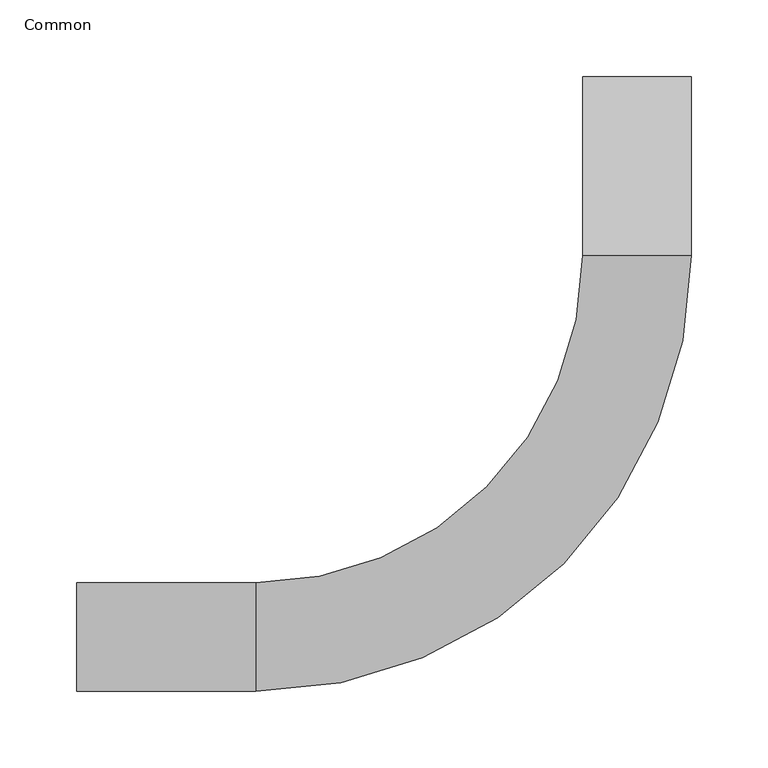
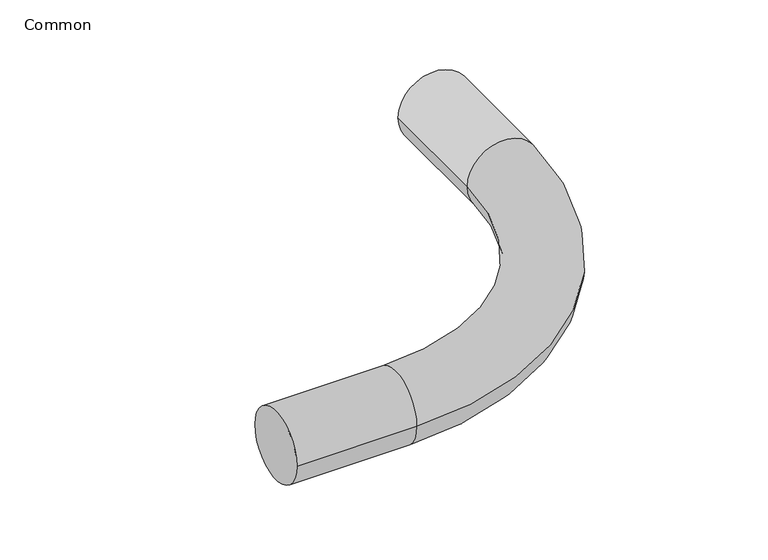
"""IFC4 building model written with IfcOpenShell, lengths in millimetres: cable carrier fitting geometry, 011_電線管エルボ : Common."""

from ifc_helpers import new_model, si_unit, point, frame, origin, place, context, project, spatial, circle_curve, ellipse_curve, trimmed, source, transform, mapped, element, save
from ifc_brep_helpers import plane_surface, cylinder_surface, revolved_surface, advanced_brep


def common_09ffd0da(model_context):
    return source(origin(), model_context, "Body", "AdvancedBrep", [
        advanced_brep(
        [(-363.7239062, -35.1789063, 0.0), (-363.7239062, 35.1789062, 0.0), (-247.4882812, -35.1789063, 0.0), (-247.4882812, 35.1789062, 0.0), (-35.1789062, 247.4882812, 0.0), (35.1789063, 247.4882812, 0.0), (35.1789063, 363.7239062, 0.0), (-35.1789062, 363.7239062, 0.0)],
        [
            (0, 1, circle_curve(frame((-363.7239062, 0.0, 0.0), z_axis=(-1.0, 0.0, 0.0), x_axis=(0.0, 1.0, 0.0)), 35.1789063)),
            (1, 0, circle_curve(frame((-363.7239062, 0.0, 0.0), z_axis=(-1.0, 0.0, 0.0), x_axis=(0.0, 1.0, 0.0)), 35.1789063)),
            (0, 2),
            (2, 3, circle_curve(frame((-247.4882812, 0.0, 0.0), z_axis=(-1.0, 0.0, 0.0), x_axis=(0.0, 1.0, 0.0)), 35.1789063)),
            (3, 1),
            (3, 2, circle_curve(frame((-247.4882812, 0.0, 0.0), z_axis=(-1.0, 0.0, 0.0), x_axis=(0.0, 1.0, 0.0)), 35.1789063)),
            (4, 3, circle_curve(frame((-247.4882812, 247.4882812, 0.0), z_axis=(0.0, 0.0, -1.0), x_axis=(0.0, -1.0, 0.0)), 212.309375)),
            (2, 5, circle_curve(frame((-247.4882812, 247.4882812, 0.0), z_axis=(0.0, 0.0, 1.0), x_axis=(0.0, -1.0, 0.0)), 282.6671875)),
            (5, 4, circle_curve(frame((0.0, 247.4882812, 0.0), z_axis=(0.0, -1.0, 0.0), x_axis=(-1.0, 0.0, 0.0)), 35.1789063)),
            (4, 5, circle_curve(frame((0.0, 247.4882812, 0.0), z_axis=(0.0, -1.0, 0.0), x_axis=(-1.0, 0.0, 0.0)), 35.1789063)),
            (6, 7, circle_curve(frame((0.0, 363.7239062, 0.0), z_axis=(0.0, 1.0, 0.0), x_axis=(-1.0, 0.0, 0.0)), 35.1789063)),
            (7, 6, circle_curve(frame((0.0, 363.7239062, 0.0), z_axis=(0.0, 1.0, 0.0), x_axis=(-1.0, 0.0, 0.0)), 35.1789063)),
            (5, 6),
            (7, 4),
        ],
        [
            plane_surface(frame((-363.7239062, 0.0, 0.0), z_axis=(-1.0, 0.0, 0.0), x_axis=(0.0, 0.0, 1.0))),
            cylinder_surface(frame((-363.7239062, 0.0, 0.0), z_axis=(-1.0, 0.0, 0.0), x_axis=(0.0, 1.0, 0.0)), 35.1789063),
            revolved_surface(trimmed(ellipse_curve(frame((-247.4882812, 0.0, 0.0), z_axis=(-1.0, 0.0, 0.0), x_axis=(0.0, 1.0, 0.0)), 35.1789063, 35.1789063), [point((-247.4882812, -35.1789063, 0.0))], [point((-247.4882812, 35.1789062, 0.0))], True, "CARTESIAN"), (-247.4882812, 247.4882812, 0.0), (0.0, 0.0, 1.0)),
            revolved_surface(trimmed(ellipse_curve(frame((-247.4882812, 0.0, 0.0), z_axis=(-1.0, 0.0, 0.0), x_axis=(0.0, 1.0, 0.0)), 35.1789063, 35.1789063), [point((-247.4882812, 35.1789062, 0.0))], [point((-247.4882812, -35.1789063, 0.0))], True, "CARTESIAN"), (-247.4882812, 247.4882812, 0.0), (0.0, 0.0, 1.0)),
            plane_surface(frame((0.0, 363.7239062, 0.0), z_axis=(0.0, 1.0, 0.0), x_axis=(0.0, 0.0, 1.0))),
            cylinder_surface(frame((0.0, 247.4882812, 0.0), z_axis=(0.0, -1.0, 0.0), x_axis=(-1.0, 0.0, 0.0)), 35.1789063),
        ],
        [
            (0, [[1, 2]]),
            (1, [[-1, 3, 4, 5]]),
            (1, [[-2, -5, 6, -3]]),
            (2, [[7, -4, 8, 9]]),
            (3, [[-8, -6, -7, 10]]),
            (4, [[11, 12]]),
            (5, [[-9, 13, -12, 14]]),
            (5, [[-10, -14, -11, -13]]),
        ],
    ),
    ])


if __name__ == "__main__":
    model = new_model("IFC4")
    model_context = context("Model", 3, world=origin())
    ifc_project = project(units=[si_unit("LENGTHUNIT", "METRE", prefix="MILLI")], contexts=[model_context])
    site = spatial("IfcSite", under=ifc_project)
    building = spatial("IfcBuilding", under=site)
    placement = place(None, origin())
    common_shape = common_09ffd0da(model_context)
    element("IfcCableCarrierFitting", 1, ObjectType="011_電線管エルボ : Common", at=placement, inside=building, context=model_context, shape_type="MappedRepresentation", body=[
        mapped(common_shape, transform((0.0, 0.0, 0.0), x_axis=(1.0, 0.0, 0.0), y_axis=(0.0, 1.0, 0.0), z_axis=(0.0, 0.0, 1.0))),
    ])
    save(model, "model.ifc")
